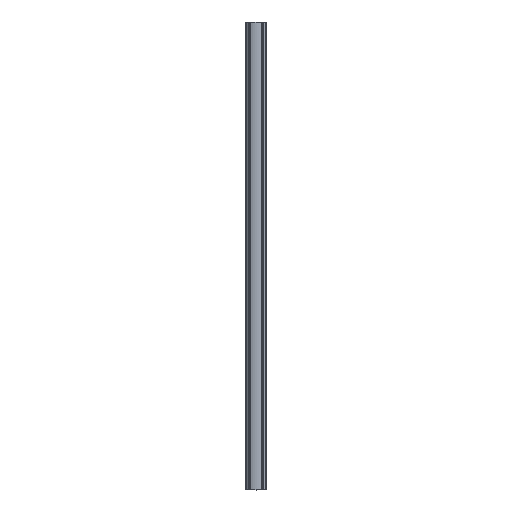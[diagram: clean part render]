
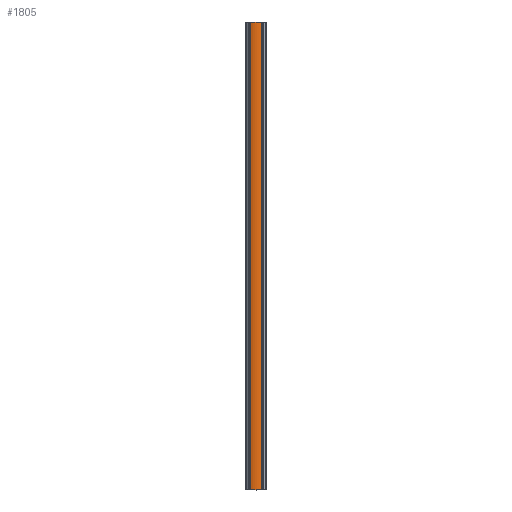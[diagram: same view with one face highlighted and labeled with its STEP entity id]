
A CAD part, top view. The second image highlights one B-rep face of the part: STEP entity #1805.
In plain terms, the highlighted cylindrical face has radius 60 mm (diameter 120 mm), a partial arc.
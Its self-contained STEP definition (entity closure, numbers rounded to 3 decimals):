
#214 = CARTESIAN_POINT ( 'NONE',  ( 83.965, -626.223, 2215.964 ) ) ;
#291 = DIRECTION ( 'NONE',  ( 0., 1., 0. ) ) ;
#337 = EDGE_CURVE ( 'NONE', #1001, #3259, #3550, .T. ) ;
#426 = CYLINDRICAL_SURFACE ( 'NONE', #567, 60. ) ;
#487 = VECTOR ( 'NONE', #1525, 1000. ) ;
#567 = AXIS2_PLACEMENT_3D ( 'NONE', #1850, #2713, #1285 ) ;
#881 = ORIENTED_EDGE ( 'NONE', *, *, #1495, .F. ) ;
#966 = ORIENTED_EDGE ( 'NONE', *, *, #337, .F. ) ;
#1001 = VERTEX_POINT ( 'NONE', #2162 ) ;
#1066 = ORIENTED_EDGE ( 'NONE', *, *, #2076, .F. ) ;
#1076 = CARTESIAN_POINT ( 'NONE',  ( 104.688, -84.723, 2272.271 ) ) ;
#1095 = VERTEX_POINT ( 'NONE', #3357 ) ;
#1124 = AXIS2_PLACEMENT_3D ( 'NONE', #214, #2143, #2153 ) ;
#1285 = DIRECTION ( 'NONE',  ( 0., 0., -1. ) ) ;
#1456 = ORIENTED_EDGE ( 'NONE', *, *, #1796, .F. ) ;
#1495 = EDGE_CURVE ( 'NONE', #2612, #1095, #2328, .T. ) ;
#1525 = DIRECTION ( 'NONE',  ( 0., 1., 0. ) ) ;
#1634 = CARTESIAN_POINT ( 'NONE',  ( 104.688, 1123.777, 2272.271 ) ) ;
#1746 = CIRCLE ( 'NONE', #1124, 60. ) ;
#1796 = EDGE_CURVE ( 'NONE', #1095, #1001, #1746, .T. ) ;
#1805 = ADVANCED_FACE ( 'NONE', ( #3572 ), #426, .T. ) ;
#1850 = CARTESIAN_POINT ( 'NONE',  ( 83.965, 456.777, 2215.964 ) ) ;
#2076 = EDGE_CURVE ( 'NONE', #3259, #2612, #2175, .T. ) ;
#2113 = AXIS2_PLACEMENT_3D ( 'NONE', #2813, #291, #3375 ) ;
#2143 = DIRECTION ( 'NONE',  ( 0., -1., 0. ) ) ;
#2153 = DIRECTION ( 'NONE',  ( 0., 0., -1. ) ) ;
#2162 = CARTESIAN_POINT ( 'NONE',  ( 63.242, -626.223, 2272.271 ) ) ;
#2175 = CIRCLE ( 'NONE', #2113, 60. ) ;
#2200 = DIRECTION ( 'NONE',  ( 0., -1., 0. ) ) ;
#2328 = LINE ( 'NONE', #1076, #3021 ) ;
#2332 = CARTESIAN_POINT ( 'NONE',  ( 63.242, -84.723, 2272.271 ) ) ;
#2612 = VERTEX_POINT ( 'NONE', #1634 ) ;
#2713 = DIRECTION ( 'NONE',  ( 0., -1., 0. ) ) ;
#2813 = CARTESIAN_POINT ( 'NONE',  ( 83.965, 1123.777, 2215.964 ) ) ;
#2994 = EDGE_LOOP ( 'NONE', ( #881, #1066, #966, #1456 ) ) ;
#3021 = VECTOR ( 'NONE', #2200, 1000. ) ;
#3259 = VERTEX_POINT ( 'NONE', #3358 ) ;
#3357 = CARTESIAN_POINT ( 'NONE',  ( 104.688, -626.223, 2272.271 ) ) ;
#3358 = CARTESIAN_POINT ( 'NONE',  ( 63.242, 1123.777, 2272.271 ) ) ;
#3375 = DIRECTION ( 'NONE',  ( 0., 0., 1. ) ) ;
#3550 = LINE ( 'NONE', #2332, #487 ) ;
#3572 = FACE_OUTER_BOUND ( 'NONE', #2994, .T. ) ;
